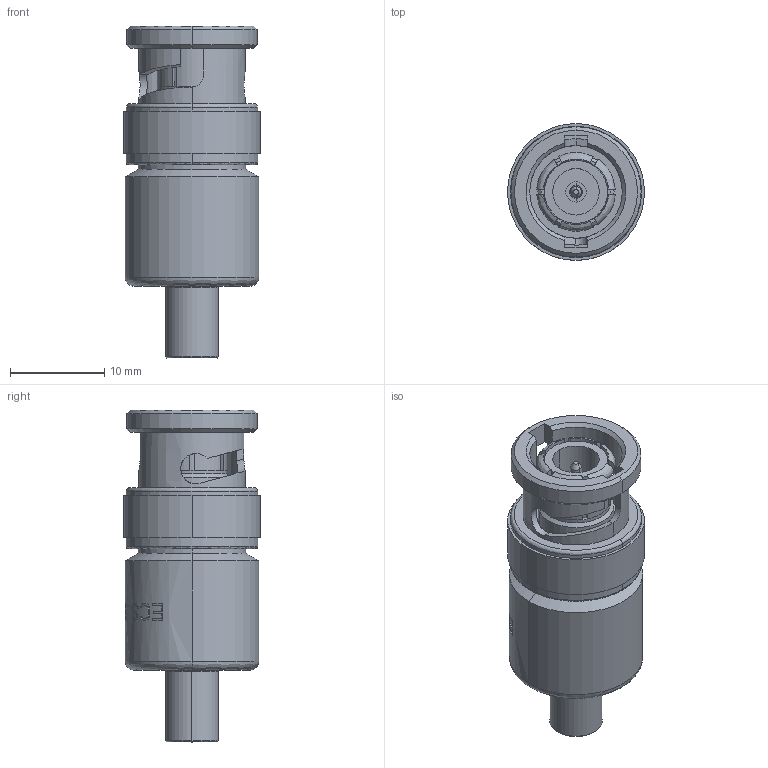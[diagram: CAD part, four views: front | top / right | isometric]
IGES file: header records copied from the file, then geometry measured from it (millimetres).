
Start section:  PTC IGES file: CBS922.igs
Global section: file name: CBS922.igs; native system: Creo Parametric by PTC Inc.; preprocessor: 2017260; author: Anthony.Gnas; organization: Unknown; date: 20191212.090500; units: inch
Bounding box: 14.55 x 14.55 x 35.28 mm (x, y, z)
Surface area: 2540.6 mm2 (no closed solid volume)
Topology: 0 solids, 0 shells, 497 faces, 2788 edges, 2788 vertices
Faces by surface type: bspline 403, revolution 94
